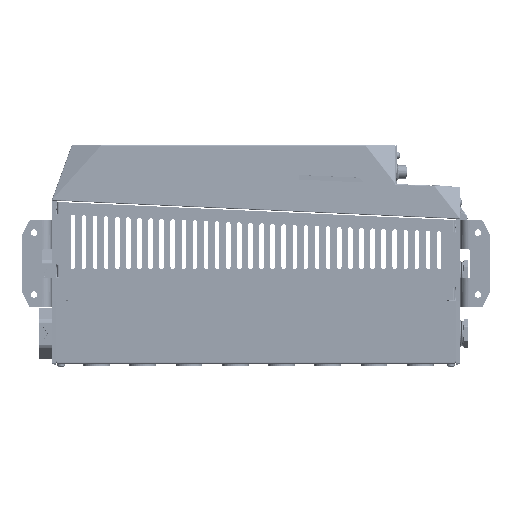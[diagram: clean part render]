
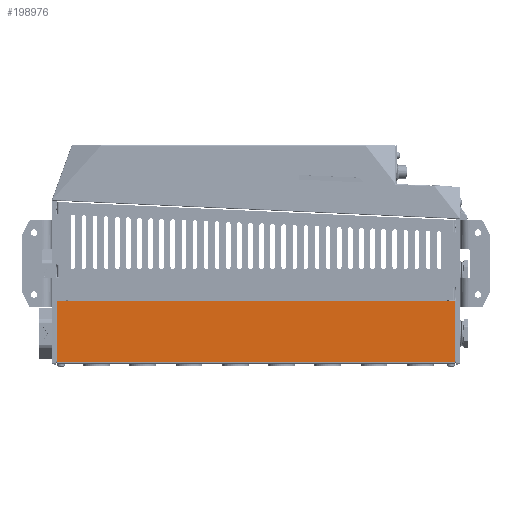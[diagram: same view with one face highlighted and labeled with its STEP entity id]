
A CAD part, left-side view. The second image highlights one B-rep face of the part: STEP entity #198976.
In plain terms, the highlighted planar face has unit normal (-1, 0, 0) as drawn and (0, -1, 0) by its records, which use the part's own axes.
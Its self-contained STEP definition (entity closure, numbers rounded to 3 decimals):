
#651 = VECTOR ( 'NONE', #222733, 1000. ) ;
#8935 = EDGE_LOOP ( 'NONE', ( #279308, #202848, #169318, #74035, #280096, #293387 ) ) ;
#15465 = LINE ( 'NONE', #121585, #292530 ) ;
#39475 = EDGE_CURVE ( 'NONE', #265482, #119804, #192722, .T. ) ;
#40027 = LINE ( 'NONE', #330404, #651 ) ;
#42688 = AXIS2_PLACEMENT_3D ( 'NONE', #202646, #65318, #61895 ) ;
#57647 = CARTESIAN_POINT ( 'NONE',  ( 67., -84., 215. ) ) ;
#61895 = DIRECTION ( 'NONE',  ( -1., 0., 0. ) ) ;
#65318 = DIRECTION ( 'NONE',  ( 0., 1., 0. ) ) ;
#66842 = CARTESIAN_POINT ( 'NONE',  ( 67., -84., -215. ) ) ;
#74035 = ORIENTED_EDGE ( 'NONE', *, *, #289471, .T. ) ;
#81412 = DIRECTION ( 'NONE',  ( 0., 0., -1. ) ) ;
#97264 = VECTOR ( 'NONE', #81412, 1000. ) ;
#97642 = CARTESIAN_POINT ( 'NONE',  ( 0., -84., 215. ) ) ;
#101584 = CARTESIAN_POINT ( 'NONE',  ( 68., -84., -214. ) ) ;
#107633 = DIRECTION ( 'NONE',  ( 0., 1., 0. ) ) ;
#111072 = DIRECTION ( 'NONE',  ( -1., 0., 0. ) ) ;
#113742 = VERTEX_POINT ( 'NONE', #182906 ) ;
#119804 = VERTEX_POINT ( 'NONE', #66842 ) ;
#121585 = CARTESIAN_POINT ( 'NONE',  ( 2., -84., 215. ) ) ;
#126296 = CARTESIAN_POINT ( 'NONE',  ( 2., -84., 215. ) ) ;
#133601 = LINE ( 'NONE', #157976, #97264 ) ;
#133996 = AXIS2_PLACEMENT_3D ( 'NONE', #241483, #107633, #111072 ) ;
#145765 = EDGE_CURVE ( 'NONE', #223354, #192138, #271051, .T. ) ;
#154944 = CARTESIAN_POINT ( 'NONE',  ( 2., -84., -215. ) ) ;
#157976 = CARTESIAN_POINT ( 'NONE',  ( 68., -84., 215. ) ) ;
#168417 = DIRECTION ( 'NONE',  ( 1., 0., 0. ) ) ;
#169318 = ORIENTED_EDGE ( 'NONE', *, *, #145765, .F. ) ;
#182906 = CARTESIAN_POINT ( 'NONE',  ( 68., -84., 214. ) ) ;
#192138 = VERTEX_POINT ( 'NONE', #57647 ) ;
#192722 = CIRCLE ( 'NONE', #42688, 1. ) ;
#194609 = CARTESIAN_POINT ( 'NONE',  ( 0., -84., 215. ) ) ;
#198651 = DIRECTION ( 'NONE',  ( -1., 0., 0. ) ) ;
#198976 = ADVANCED_FACE ( 'NONE', ( #278524 ), #335867, .T. ) ;
#201629 = DIRECTION ( 'NONE',  ( 0., 0., -1. ) ) ;
#202140 = EDGE_CURVE ( 'NONE', #192138, #113742, #233808, .T. ) ;
#202646 = CARTESIAN_POINT ( 'NONE',  ( 67., -84., -214. ) ) ;
#202848 = ORIENTED_EDGE ( 'NONE', *, *, #202140, .F. ) ;
#222733 = DIRECTION ( 'NONE',  ( 1., 0., 0. ) ) ;
#223354 = VERTEX_POINT ( 'NONE', #126296 ) ;
#233808 = CIRCLE ( 'NONE', #133996, 1. ) ;
#241483 = CARTESIAN_POINT ( 'NONE',  ( 67., -84., 214. ) ) ;
#252445 = DIRECTION ( 'NONE',  ( 0., -1., 0. ) ) ;
#252626 = VERTEX_POINT ( 'NONE', #154944 ) ;
#265482 = VERTEX_POINT ( 'NONE', #101584 ) ;
#271051 = LINE ( 'NONE', #194609, #274266 ) ;
#274266 = VECTOR ( 'NONE', #168417, 1000. ) ;
#278524 = FACE_OUTER_BOUND ( 'NONE', #8935, .T. ) ;
#279308 = ORIENTED_EDGE ( 'NONE', *, *, #342151, .F. ) ;
#279332 = EDGE_CURVE ( 'NONE', #252626, #119804, #40027, .T. ) ;
#280096 = ORIENTED_EDGE ( 'NONE', *, *, #279332, .T. ) ;
#289471 = EDGE_CURVE ( 'NONE', #223354, #252626, #15465, .T. ) ;
#292530 = VECTOR ( 'NONE', #201629, 1000. ) ;
#292606 = AXIS2_PLACEMENT_3D ( 'NONE', #97642, #252445, #198651 ) ;
#293387 = ORIENTED_EDGE ( 'NONE', *, *, #39475, .F. ) ;
#330404 = CARTESIAN_POINT ( 'NONE',  ( 0., -84., -215. ) ) ;
#335867 = PLANE ( 'NONE',  #292606 ) ;
#342151 = EDGE_CURVE ( 'NONE', #113742, #265482, #133601, .T. ) ;
